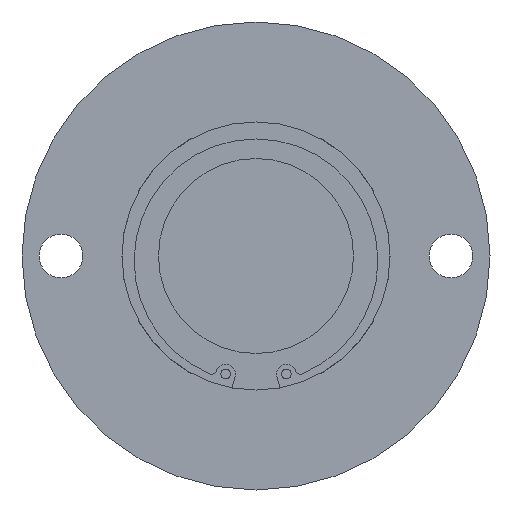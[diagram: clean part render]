
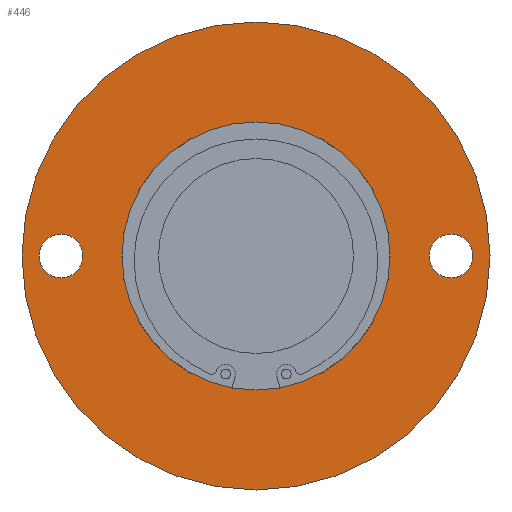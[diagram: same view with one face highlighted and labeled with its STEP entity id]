
A CAD part, front view. The second image highlights one B-rep face of the part: STEP entity #446.
In plain terms, the highlighted planar face has unit normal (0, -1, 0).
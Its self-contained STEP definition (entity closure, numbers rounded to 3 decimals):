
#18 = ORIENTED_EDGE ( 'NONE', *, *, #309, .T. ) ;
#35 = EDGE_CURVE ( 'NONE', #733, #261, #192, .T. ) ;
#53 = CARTESIAN_POINT ( 'NONE',  ( 0., 0., -27.5 ) ) ;
#60 = CIRCLE ( 'NONE', #462, 48. ) ;
#66 = CARTESIAN_POINT ( 'NONE',  ( -40., 0., -4.5 ) ) ;
#84 = CARTESIAN_POINT ( 'NONE',  ( 0., 0., -48. ) ) ;
#98 = VERTEX_POINT ( 'NONE', #84 ) ;
#102 = ORIENTED_EDGE ( 'NONE', *, *, #35, .T. ) ;
#123 = DIRECTION ( 'NONE',  ( 0., -1., 0. ) ) ;
#149 = CIRCLE ( 'NONE', #289, 27.5 ) ;
#184 = EDGE_CURVE ( 'NONE', #559, #1044, #653, .T. ) ;
#186 = DIRECTION ( 'NONE',  ( 0., 1., 0. ) ) ;
#192 = CIRCLE ( 'NONE', #521, 4.5 ) ;
#199 = EDGE_CURVE ( 'NONE', #1227, #760, #332, .T. ) ;
#214 = FACE_OUTER_BOUND ( 'NONE', #591, .T. ) ;
#223 = EDGE_CURVE ( 'NONE', #760, #1227, #1020, .T. ) ;
#224 = ORIENTED_EDGE ( 'NONE', *, *, #619, .F. ) ;
#253 = DIRECTION ( 'NONE',  ( 0., 1., 0. ) ) ;
#261 = VERTEX_POINT ( 'NONE', #675 ) ;
#289 = AXIS2_PLACEMENT_3D ( 'NONE', #499, #1192, #601 ) ;
#291 = EDGE_CURVE ( 'NONE', #261, #733, #727, .T. ) ;
#309 = EDGE_CURVE ( 'NONE', #1044, #559, #149, .T. ) ;
#323 = DIRECTION ( 'NONE',  ( 0., 1., 0. ) ) ;
#332 = CIRCLE ( 'NONE', #971, 4.5 ) ;
#354 = CIRCLE ( 'NONE', #915, 48. ) ;
#367 = ORIENTED_EDGE ( 'NONE', *, *, #223, .T. ) ;
#371 = DIRECTION ( 'NONE',  ( 0., 1., 0. ) ) ;
#382 = DIRECTION ( 'NONE',  ( 0., 1., 0. ) ) ;
#391 = PLANE ( 'NONE',  #1088 ) ;
#398 = EDGE_CURVE ( 'NONE', #890, #98, #60, .T. ) ;
#446 = ADVANCED_FACE ( 'NONE', ( #745, #1266, #480, #214 ), #391, .T. ) ;
#462 = AXIS2_PLACEMENT_3D ( 'NONE', #906, #323, #1010 ) ;
#480 = FACE_BOUND ( 'NONE', #960, .T. ) ;
#496 = ORIENTED_EDGE ( 'NONE', *, *, #398, .F. ) ;
#499 = CARTESIAN_POINT ( 'NONE',  ( 0., 0., 0. ) ) ;
#521 = AXIS2_PLACEMENT_3D ( 'NONE', #952, #371, #1056 ) ;
#528 = DIRECTION ( 'NONE',  ( 0., 1., 0. ) ) ;
#559 = VERTEX_POINT ( 'NONE', #53 ) ;
#591 = EDGE_LOOP ( 'NONE', ( #496, #224 ) ) ;
#597 = DIRECTION ( 'NONE',  ( 0., 0., -1. ) ) ;
#601 = DIRECTION ( 'NONE',  ( 0., 0., 1. ) ) ;
#619 = EDGE_CURVE ( 'NONE', #98, #890, #354, .T. ) ;
#653 = CIRCLE ( 'NONE', #829, 27.5 ) ;
#675 = CARTESIAN_POINT ( 'NONE',  ( 40., 0., 4.5 ) ) ;
#697 = EDGE_LOOP ( 'NONE', ( #852, #102 ) ) ;
#700 = CARTESIAN_POINT ( 'NONE',  ( 0., 0., 48. ) ) ;
#705 = CARTESIAN_POINT ( 'NONE',  ( -27.5, 0., 0. ) ) ;
#727 = CIRCLE ( 'NONE', #1173, 4.5 ) ;
#733 = VERTEX_POINT ( 'NONE', #831 ) ;
#745 = FACE_BOUND ( 'NONE', #697, .T. ) ;
#760 = VERTEX_POINT ( 'NONE', #66 ) ;
#768 = CARTESIAN_POINT ( 'NONE',  ( -40., 0., 0. ) ) ;
#806 = DIRECTION ( 'NONE',  ( 0., 0., -1. ) ) ;
#829 = AXIS2_PLACEMENT_3D ( 'NONE', #841, #253, #943 ) ;
#831 = CARTESIAN_POINT ( 'NONE',  ( 40., 0., -4.5 ) ) ;
#841 = CARTESIAN_POINT ( 'NONE',  ( 0., 0., 0. ) ) ;
#852 = ORIENTED_EDGE ( 'NONE', *, *, #291, .T. ) ;
#867 = CARTESIAN_POINT ( 'NONE',  ( 40., 0., 0. ) ) ;
#870 = DIRECTION ( 'NONE',  ( 0., 0., -1. ) ) ;
#890 = VERTEX_POINT ( 'NONE', #700 ) ;
#903 = AXIS2_PLACEMENT_3D ( 'NONE', #768, #186, #870 ) ;
#906 = CARTESIAN_POINT ( 'NONE',  ( 0., 0., 0. ) ) ;
#915 = AXIS2_PLACEMENT_3D ( 'NONE', #1122, #528, #1217 ) ;
#917 = ORIENTED_EDGE ( 'NONE', *, *, #184, .T. ) ;
#943 = DIRECTION ( 'NONE',  ( 0., 0., 1. ) ) ;
#952 = CARTESIAN_POINT ( 'NONE',  ( 40., 0., 0. ) ) ;
#960 = EDGE_LOOP ( 'NONE', ( #18, #917 ) ) ;
#967 = CARTESIAN_POINT ( 'NONE',  ( -40., 0., 0. ) ) ;
#968 = CARTESIAN_POINT ( 'NONE',  ( -40., 0., 4.5 ) ) ;
#971 = AXIS2_PLACEMENT_3D ( 'NONE', #967, #382, #1064 ) ;
#1010 = DIRECTION ( 'NONE',  ( 0., 0., 1. ) ) ;
#1020 = CIRCLE ( 'NONE', #903, 4.5 ) ;
#1044 = VERTEX_POINT ( 'NONE', #1094 ) ;
#1056 = DIRECTION ( 'NONE',  ( 0., 0., -1. ) ) ;
#1064 = DIRECTION ( 'NONE',  ( 0., 0., -1. ) ) ;
#1074 = ORIENTED_EDGE ( 'NONE', *, *, #199, .T. ) ;
#1088 = AXIS2_PLACEMENT_3D ( 'NONE', #705, #123, #806 ) ;
#1094 = CARTESIAN_POINT ( 'NONE',  ( 0., 0., 27.5 ) ) ;
#1122 = CARTESIAN_POINT ( 'NONE',  ( 0., 0., 0. ) ) ;
#1173 = AXIS2_PLACEMENT_3D ( 'NONE', #867, #1182, #597 ) ;
#1182 = DIRECTION ( 'NONE',  ( 0., 1., 0. ) ) ;
#1192 = DIRECTION ( 'NONE',  ( 0., 1., 0. ) ) ;
#1206 = EDGE_LOOP ( 'NONE', ( #1074, #367 ) ) ;
#1217 = DIRECTION ( 'NONE',  ( 0., 0., 1. ) ) ;
#1227 = VERTEX_POINT ( 'NONE', #968 ) ;
#1266 = FACE_BOUND ( 'NONE', #1206, .T. ) ;
